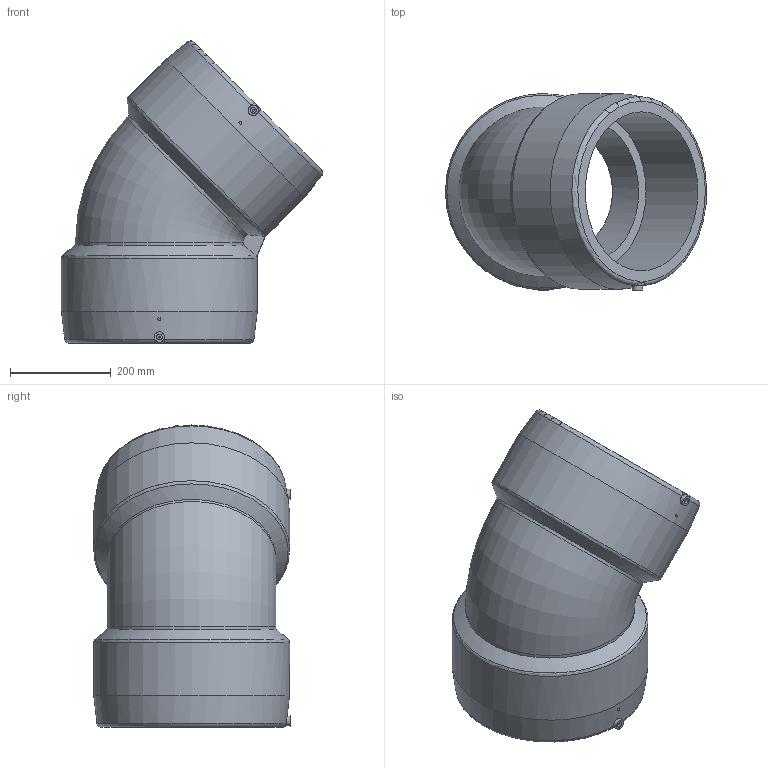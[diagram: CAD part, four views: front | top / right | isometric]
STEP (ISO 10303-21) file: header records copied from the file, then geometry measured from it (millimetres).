
FILE_DESCRIPTION(/* description */ ('Unknown'),/* implementation_level */ '2;1');
FILE_NAME(/* name */ 'GE4P315C',/* time_stamp */ '2020-12-03T12:44:19+01:00',/* author */ ('Unknown'),/* organization */ ('Unknown'),/* preprocessor_version */ 'ST-DEVELOPER v16.7',/* originating_system */ 'Solid Edge',/* authorisation */ 'Unknown');
FILE_SCHEMA (('AUTOMOTIVE_DESIGN {1 0 10303 214 3 1 1}'));
Length unit declared in the file: millimetre
Products named in the file (1): GE4P315C
Bounding box: 517.25 x 389.5 x 598.32 mm (x, y, z)
Volume: 20794993.3 mm3; surface area: 1257837 mm2
Topology: 1 solids, 1 shells, 43 faces, 96 edges, 63 vertices
Faces by surface type: plane 15, cylinder 14, torus 6, cone 6, bspline 2
Full cylindrical faces by diameter (mm): 4 x2, 11.5 x2, 274 x2, 315 x2, 388 x2
Entity records: 1288 total; most frequent: CARTESIAN_POINT 433, DIRECTION 172, ORIENTED_EDGE 142, AXIS2_PLACEMENT_3D 83, EDGE_CURVE 71, EDGE_LOOP 69, FACE_BOUND 69, VERTEX_POINT 54
